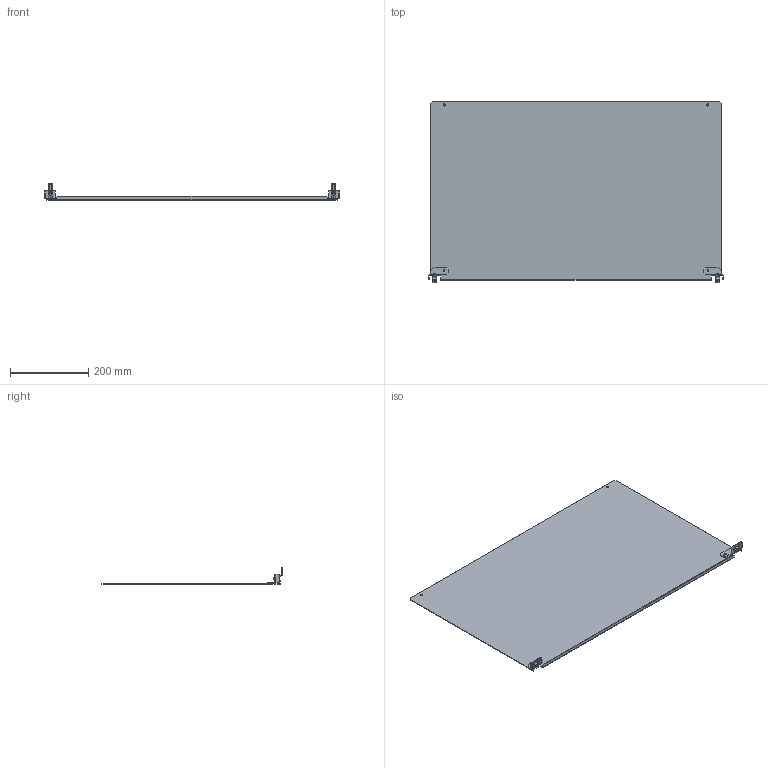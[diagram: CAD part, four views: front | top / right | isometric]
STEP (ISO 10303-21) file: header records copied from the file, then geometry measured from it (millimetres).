
FILE_DESCRIPTION(('CAx-IF Rec.Pracs.---Model Styling and Organization---1.2---2011-12-15','CAx-IF Rec.Pracs.---Geometric and Assembly Validation Properties---4.1---2014-06-16','CAx-IF Rec.Pracs.---PMI Polyline Presentation---2.0---2013-05-24'),'2;1');
FILE_NAME('R5RCB805.stp','2021-05-06T04:09:50+03:00',(''),(''),'STEP Interface 4.4 by CT CoreTechnologie','3D_Evolution4.4 by CT CoreTechnologie','');
FILE_SCHEMA(('AUTOMOTIVE_DESIGN { 1 0 10303 214 1 1 1 1 }'));
Length unit declared in the file: millimetre
Products named in the file (6): R5RCB805; RB.0546.00.00.0_-00; RB.0546.00.00.0_-01; AC00C485; M6x16-DIN 7985 ISR_thread; RB.0545.00.00.1_-04 500x800
Assembly tree (7 placements, depth 2):
  R5RCB805
    RB.0546.00.00.0_-00
    RB.0546.00.00.0_-01
    AC00C485  x2
    M6x16-DIN 7985 ISR_thread  x2
    RB.0545.00.00.1_-04 500x800
Bounding box: 755 x 465.5 x 42.55 mm (x, y, z)
Surface area: 708649.4 mm2 (no closed solid volume)
Topology: 0 solids, 11 shells, 265 faces, 661 edges, 412 vertices
Faces by surface type: plane 137, cylinder 100, bspline 28
Entity records: 5895 total; most frequent: CARTESIAN_POINT 1403, DIRECTION 874, ORIENTED_EDGE 870, EDGE_CURVE 435, VECTOR 304, LINE 304, AXIS2_PLACEMENT_3D 285, VERTEX_POINT 278
